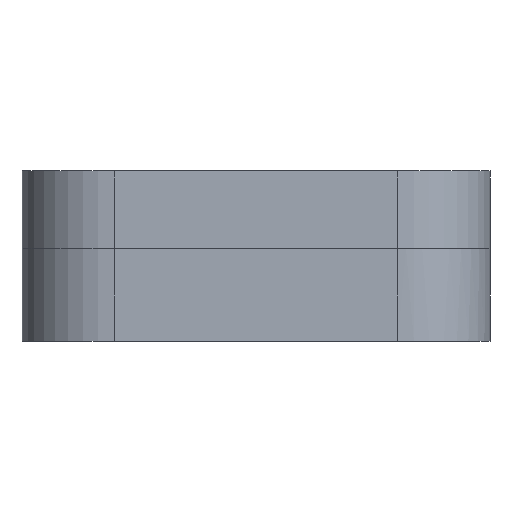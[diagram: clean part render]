
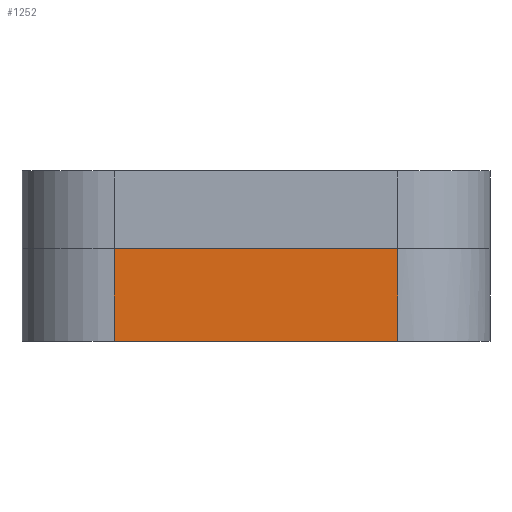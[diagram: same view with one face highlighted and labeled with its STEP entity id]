
A CAD part, left-side view. The second image highlights one B-rep face of the part: STEP entity #1252.
In plain terms, the highlighted planar face has unit normal (-1, 0, 0).
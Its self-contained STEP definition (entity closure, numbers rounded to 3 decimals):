
#32 = PLANE('',#33);
#33 = AXIS2_PLACEMENT_3D('',#34,#35,#36);
#34 = CARTESIAN_POINT('',(30.,-20.,13.));
#35 = DIRECTION('',(-0.,-0.,-1.));
#36 = DIRECTION('',(-1.,0.,0.));
#73 = CYLINDRICAL_SURFACE('',#74,13.);
#74 = AXIS2_PLACEMENT_3D('',#75,#76,#77);
#75 = CARTESIAN_POINT('',(0.,-40.,0.));
#76 = DIRECTION('',(0.,0.,-1.));
#77 = DIRECTION('',(0.,-1.,0.));
#86 = VERTEX_POINT('',#87);
#87 = CARTESIAN_POINT('',(-13.,-40.,13.));
#109 = EDGE_CURVE('',#86,#110,#112,.T.);
#110 = VERTEX_POINT('',#111);
#111 = CARTESIAN_POINT('',(-13.,0.,13.));
#112 = SURFACE_CURVE('',#113,(#117,#124),.PCURVE_S1.);
#113 = LINE('',#114,#115);
#114 = CARTESIAN_POINT('',(-13.,-40.,13.));
#115 = VECTOR('',#116,1.);
#116 = DIRECTION('',(0.,1.,0.));
#117 = PCURVE('',#32,#118);
#118 = DEFINITIONAL_REPRESENTATION('',(#119),#123);
#119 = LINE('',#120,#121);
#120 = CARTESIAN_POINT('',(43.,-20.));
#121 = VECTOR('',#122,1.);
#122 = DIRECTION('',(0.,1.));
#123 = ( GEOMETRIC_REPRESENTATION_CONTEXT(2) 
PARAMETRIC_REPRESENTATION_CONTEXT() REPRESENTATION_CONTEXT('2D SPACE',''
  ) );
#124 = PCURVE('',#125,#130);
#125 = PLANE('',#126);
#126 = AXIS2_PLACEMENT_3D('',#127,#128,#129);
#127 = CARTESIAN_POINT('',(-13.,-40.,0.));
#128 = DIRECTION('',(-1.,0.,0.));
#129 = DIRECTION('',(0.,1.,0.));
#130 = DEFINITIONAL_REPRESENTATION('',(#131),#135);
#131 = LINE('',#132,#133);
#132 = CARTESIAN_POINT('',(0.,-13.));
#133 = VECTOR('',#134,1.);
#134 = DIRECTION('',(1.,0.));
#135 = ( GEOMETRIC_REPRESENTATION_CONTEXT(2) 
PARAMETRIC_REPRESENTATION_CONTEXT() REPRESENTATION_CONTEXT('2D SPACE',''
  ) );
#154 = CYLINDRICAL_SURFACE('',#155,13.);
#155 = AXIS2_PLACEMENT_3D('',#156,#157,#158);
#156 = CARTESIAN_POINT('',(0.,0.,0.));
#157 = DIRECTION('',(0.,0.,-1.));
#158 = DIRECTION('',(-1.,0.,-0.));
#1089 = PLANE('',#1090);
#1090 = AXIS2_PLACEMENT_3D('',#1091,#1092,#1093);
#1091 = CARTESIAN_POINT('',(30.,-20.,0.));
#1092 = DIRECTION('',(-0.,-0.,-1.));
#1093 = DIRECTION('',(-1.,0.,0.));
#1158 = EDGE_CURVE('',#1159,#86,#1161,.T.);
#1159 = VERTEX_POINT('',#1160);
#1160 = CARTESIAN_POINT('',(-13.,-40.,0.));
#1161 = SURFACE_CURVE('',#1162,(#1166,#1173),.PCURVE_S1.);
#1162 = LINE('',#1163,#1164);
#1163 = CARTESIAN_POINT('',(-13.,-40.,0.));
#1164 = VECTOR('',#1165,1.);
#1165 = DIRECTION('',(0.,0.,1.));
#1166 = PCURVE('',#73,#1167);
#1167 = DEFINITIONAL_REPRESENTATION('',(#1168),#1172);
#1168 = LINE('',#1169,#1170);
#1169 = CARTESIAN_POINT('',(1.571,0.));
#1170 = VECTOR('',#1171,1.);
#1171 = DIRECTION('',(0.,-1.));
#1172 = ( GEOMETRIC_REPRESENTATION_CONTEXT(2) 
PARAMETRIC_REPRESENTATION_CONTEXT() REPRESENTATION_CONTEXT('2D SPACE',''
  ) );
#1173 = PCURVE('',#125,#1174);
#1174 = DEFINITIONAL_REPRESENTATION('',(#1175),#1179);
#1175 = LINE('',#1176,#1177);
#1176 = CARTESIAN_POINT('',(0.,0.));
#1177 = VECTOR('',#1178,1.);
#1178 = DIRECTION('',(0.,-1.));
#1179 = ( GEOMETRIC_REPRESENTATION_CONTEXT(2) 
PARAMETRIC_REPRESENTATION_CONTEXT() REPRESENTATION_CONTEXT('2D SPACE',''
  ) );
#1252 = ADVANCED_FACE('',(#1253),#125,.T.);
#1253 = FACE_BOUND('',#1254,.T.);
#1254 = EDGE_LOOP('',(#1255,#1256,#1257,#1280));
#1255 = ORIENTED_EDGE('',*,*,#1158,.T.);
#1256 = ORIENTED_EDGE('',*,*,#109,.T.);
#1257 = ORIENTED_EDGE('',*,*,#1258,.F.);
#1258 = EDGE_CURVE('',#1259,#110,#1261,.T.);
#1259 = VERTEX_POINT('',#1260);
#1260 = CARTESIAN_POINT('',(-13.,0.,0.));
#1261 = SURFACE_CURVE('',#1262,(#1266,#1273),.PCURVE_S1.);
#1262 = LINE('',#1263,#1264);
#1263 = CARTESIAN_POINT('',(-13.,0.,0.));
#1264 = VECTOR('',#1265,1.);
#1265 = DIRECTION('',(0.,0.,1.));
#1266 = PCURVE('',#125,#1267);
#1267 = DEFINITIONAL_REPRESENTATION('',(#1268),#1272);
#1268 = LINE('',#1269,#1270);
#1269 = CARTESIAN_POINT('',(40.,0.));
#1270 = VECTOR('',#1271,1.);
#1271 = DIRECTION('',(0.,-1.));
#1272 = ( GEOMETRIC_REPRESENTATION_CONTEXT(2) 
PARAMETRIC_REPRESENTATION_CONTEXT() REPRESENTATION_CONTEXT('2D SPACE',''
  ) );
#1273 = PCURVE('',#154,#1274);
#1274 = DEFINITIONAL_REPRESENTATION('',(#1275),#1279);
#1275 = LINE('',#1276,#1277);
#1276 = CARTESIAN_POINT('',(0.,0.));
#1277 = VECTOR('',#1278,1.);
#1278 = DIRECTION('',(0.,-1.));
#1279 = ( GEOMETRIC_REPRESENTATION_CONTEXT(2) 
PARAMETRIC_REPRESENTATION_CONTEXT() REPRESENTATION_CONTEXT('2D SPACE',''
  ) );
#1280 = ORIENTED_EDGE('',*,*,#1281,.F.);
#1281 = EDGE_CURVE('',#1159,#1259,#1282,.T.);
#1282 = SURFACE_CURVE('',#1283,(#1287,#1294),.PCURVE_S1.);
#1283 = LINE('',#1284,#1285);
#1284 = CARTESIAN_POINT('',(-13.,-40.,0.));
#1285 = VECTOR('',#1286,1.);
#1286 = DIRECTION('',(0.,1.,0.));
#1287 = PCURVE('',#125,#1288);
#1288 = DEFINITIONAL_REPRESENTATION('',(#1289),#1293);
#1289 = LINE('',#1290,#1291);
#1290 = CARTESIAN_POINT('',(0.,0.));
#1291 = VECTOR('',#1292,1.);
#1292 = DIRECTION('',(1.,0.));
#1293 = ( GEOMETRIC_REPRESENTATION_CONTEXT(2) 
PARAMETRIC_REPRESENTATION_CONTEXT() REPRESENTATION_CONTEXT('2D SPACE',''
  ) );
#1294 = PCURVE('',#1089,#1295);
#1295 = DEFINITIONAL_REPRESENTATION('',(#1296),#1300);
#1296 = LINE('',#1297,#1298);
#1297 = CARTESIAN_POINT('',(43.,-20.));
#1298 = VECTOR('',#1299,1.);
#1299 = DIRECTION('',(0.,1.));
#1300 = ( GEOMETRIC_REPRESENTATION_CONTEXT(2) 
PARAMETRIC_REPRESENTATION_CONTEXT() REPRESENTATION_CONTEXT('2D SPACE',''
  ) );
